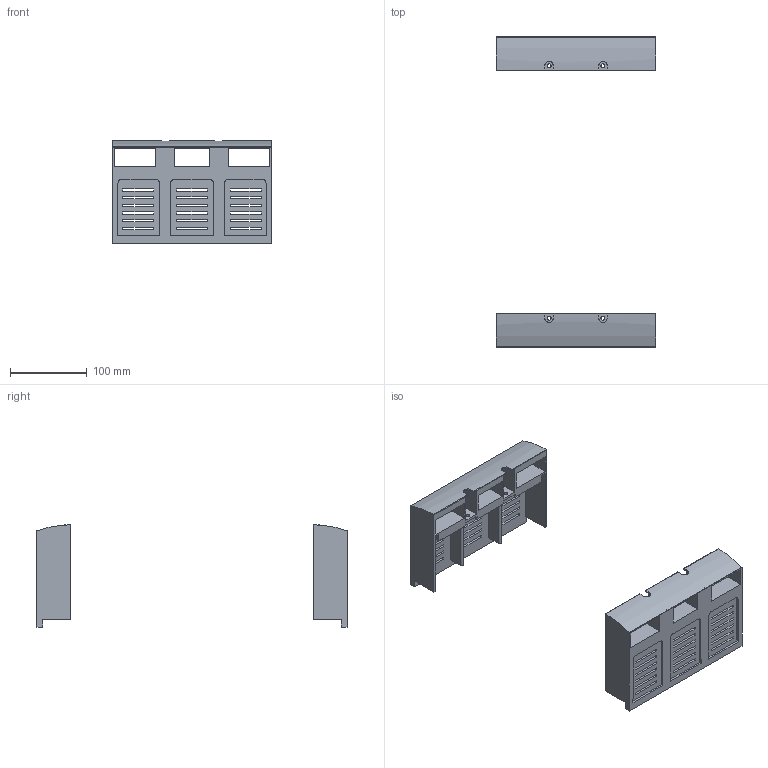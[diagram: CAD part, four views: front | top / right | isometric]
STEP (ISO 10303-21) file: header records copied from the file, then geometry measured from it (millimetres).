
FILE_DESCRIPTION (( 'STEP AP214' ), '1' );
FILE_NAME ('Êðûøêà êëåììíàÿ OptiMat D800, D1000, D1250, D1600.STEP', '2023-04-26T11:34:34', ( '' ), ( '' ), 'SwSTEP 2.0', 'SolidWorks 2018', '' );
FILE_SCHEMA (( 'AUTOMOTIVE_DESIGN' ));
Length unit declared in the file: millimetre
Products named in the file (1): Êðûøêà êëåììíàÿ OptiMat D800, D1000, D1250, D1600
Bounding box: 207 x 402.8 x 133.04 mm (x, y, z)
Volume: 595015.9 mm3; surface area: 245802.7 mm2
Topology: 2 solids, 2 shells, 330 faces, 960 edges, 640 vertices
Faces by surface type: plane 284, cylinder 46
Entity records: 14933 total; most frequent: CARTESIAN_POINT 2259, ORIENTED_EDGE 1920, DIRECTION 1714, EDGE_CURVE 960, LINE 852, VECTOR 852, VERTEX_POINT 640, AXIS2_PLACEMENT_3D 431
